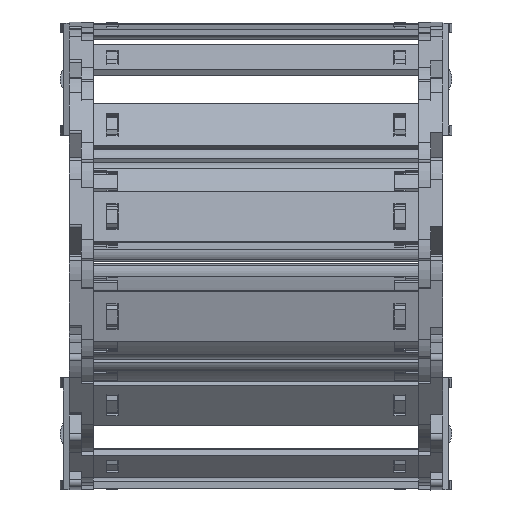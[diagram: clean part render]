
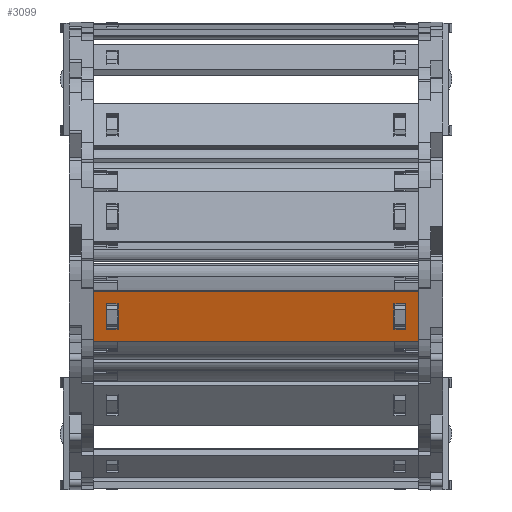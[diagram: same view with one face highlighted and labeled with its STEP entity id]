
A CAD part, top view. The second image highlights one B-rep face of the part: STEP entity #3099.
In plain terms, the highlighted planar face has unit normal (0, -0.259, 0.966) as drawn and (0, 1, 0) by its records, which use the part's own axes.
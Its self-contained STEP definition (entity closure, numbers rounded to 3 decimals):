
#2519=DIRECTION('',(0.,0.,1.));
#2520=VECTOR('',#2519,15.8);
#2521=CARTESIAN_POINT('',(85.74,1.5,-7.9));
#2522=LINE('',#2521,#2520);
#2523=DIRECTION('',(-1.,0.,0.));
#2524=VECTOR('',#2523,100.5);
#2525=CARTESIAN_POINT('',(85.74,1.5,7.9));
#2526=LINE('',#2525,#2524);
#2527=DIRECTION('',(0.,0.,-1.));
#2528=VECTOR('',#2527,15.8);
#2529=CARTESIAN_POINT('',(-14.76,1.5,7.9));
#2530=LINE('',#2529,#2528);
#2531=DIRECTION('',(1.,0.,0.));
#2532=VECTOR('',#2531,3.648);
#2533=CARTESIAN_POINT('',(78.122,1.5,4.075));
#2534=LINE('',#2533,#2532);
#2535=DIRECTION('',(0.,0.,-1.));
#2536=VECTOR('',#2535,8.15);
#2537=CARTESIAN_POINT('',(81.77,1.5,4.075));
#2538=LINE('',#2537,#2536);
#2539=DIRECTION('',(-1.,0.,0.));
#2540=VECTOR('',#2539,3.648);
#2541=CARTESIAN_POINT('',(81.77,1.5,-4.075));
#2542=LINE('',#2541,#2540);
#2543=DIRECTION('',(0.,0.,-1.));
#2544=VECTOR('',#2543,8.15);
#2545=CARTESIAN_POINT('',(-7.142,1.5,4.075));
#2546=LINE('',#2545,#2544);
#2547=DIRECTION('',(-1.,0.,0.));
#2548=VECTOR('',#2547,3.648);
#2549=CARTESIAN_POINT('',(-7.142,1.5,-4.075));
#2550=LINE('',#2549,#2548);
#2551=DIRECTION('',(0.,0.,1.));
#2552=VECTOR('',#2551,8.15);
#2553=CARTESIAN_POINT('',(-10.79,1.5,-4.075));
#2554=LINE('',#2553,#2552);
#2555=DIRECTION('',(1.,0.,0.));
#2556=VECTOR('',#2555,3.648);
#2557=CARTESIAN_POINT('',(-10.79,1.5,4.075));
#2558=LINE('',#2557,#2556);
#2563=DIRECTION('',(-1.,0.,0.));
#2564=VECTOR('',#2563,100.5);
#2565=CARTESIAN_POINT('',(85.74,1.5,-7.9));
#2566=LINE('',#2565,#2564);
#2684=DIRECTION('',(0.,0.,-1.));
#2685=VECTOR('',#2684,8.15);
#2686=CARTESIAN_POINT('',(78.122,1.5,4.075));
#2687=LINE('',#2686,#2685);
#2869=CARTESIAN_POINT('',(81.77,1.5,4.075));
#2870=VERTEX_POINT('',#2869);
#2871=CARTESIAN_POINT('',(78.122,1.5,4.075));
#2872=VERTEX_POINT('',#2871);
#2913=CARTESIAN_POINT('',(78.122,1.5,-4.075));
#2914=VERTEX_POINT('',#2913);
#2915=CARTESIAN_POINT('',(81.77,1.5,-4.075));
#2916=VERTEX_POINT('',#2915);
#2917=CARTESIAN_POINT('',(85.74,1.5,7.9));
#2919=VERTEX_POINT('',#2917);
#2921=CARTESIAN_POINT('',(85.74,1.5,-7.9));
#2922=VERTEX_POINT('',#2921);
#2945=CARTESIAN_POINT('',(-7.142,1.5,4.075));
#2946=CARTESIAN_POINT('',(-7.142,1.5,-4.075));
#2947=VERTEX_POINT('',#2945);
#2948=VERTEX_POINT('',#2946);
#2949=CARTESIAN_POINT('',(-10.79,1.5,-4.075));
#2950=VERTEX_POINT('',#2949);
#2951=CARTESIAN_POINT('',(-10.79,1.5,4.075));
#2952=VERTEX_POINT('',#2951);
#2953=CARTESIAN_POINT('',(-14.76,1.5,7.9));
#2954=VERTEX_POINT('',#2953);
#2957=CARTESIAN_POINT('',(-14.76,1.5,-7.9));
#2958=VERTEX_POINT('',#2957);
#3068=CARTESIAN_POINT('',(117.48,1.5,10.061));
#3069=DIRECTION('',(0.,-1.,0.));
#3070=DIRECTION('',(0.,0.,-1.));
#3071=AXIS2_PLACEMENT_3D('',#3068,#3069,#3070);
#3072=PLANE('',#3071);
#3073=ORIENTED_EDGE('',*,*,#3007,.T.);
#3074=ORIENTED_EDGE('',*,*,#3033,.T.);
#3075=ORIENTED_EDGE('',*,*,#3046,.T.);
#3077=ORIENTED_EDGE('',*,*,#3076,.F.);
#3078=EDGE_LOOP('',(#3073,#3074,#3075,#3077));
#3079=FACE_OUTER_BOUND('',#3078,.F.);
#3081=ORIENTED_EDGE('',*,*,#3080,.F.);
#3082=ORIENTED_EDGE('',*,*,#2970,.T.);
#3084=ORIENTED_EDGE('',*,*,#3083,.T.);
#3086=ORIENTED_EDGE('',*,*,#3085,.T.);
#3087=EDGE_LOOP('',(#3081,#3082,#3084,#3086));
#3088=FACE_BOUND('',#3087,.F.);
#3090=ORIENTED_EDGE('',*,*,#3089,.T.);
#3092=ORIENTED_EDGE('',*,*,#3091,.T.);
#3094=ORIENTED_EDGE('',*,*,#3093,.T.);
#3096=ORIENTED_EDGE('',*,*,#3095,.T.);
#3097=EDGE_LOOP('',(#3090,#3092,#3094,#3096));
#3098=FACE_BOUND('',#3097,.F.);
#3099=ADVANCED_FACE('',(#3079,#3088,#3098),#3072,.F.);
#2970=EDGE_CURVE('',#2872,#2870,#2534,.T.);
#3007=EDGE_CURVE('',#2922,#2919,#2522,.T.);
#3033=EDGE_CURVE('',#2919,#2954,#2526,.T.);
#3046=EDGE_CURVE('',#2954,#2958,#2530,.T.);
#3076=EDGE_CURVE('',#2922,#2958,#2566,.T.);
#3080=EDGE_CURVE('',#2872,#2914,#2687,.T.);
#3083=EDGE_CURVE('',#2870,#2916,#2538,.T.);
#3085=EDGE_CURVE('',#2916,#2914,#2542,.T.);
#3089=EDGE_CURVE('',#2947,#2948,#2546,.T.);
#3091=EDGE_CURVE('',#2948,#2950,#2550,.T.);
#3093=EDGE_CURVE('',#2950,#2952,#2554,.T.);
#3095=EDGE_CURVE('',#2952,#2947,#2558,.T.);
